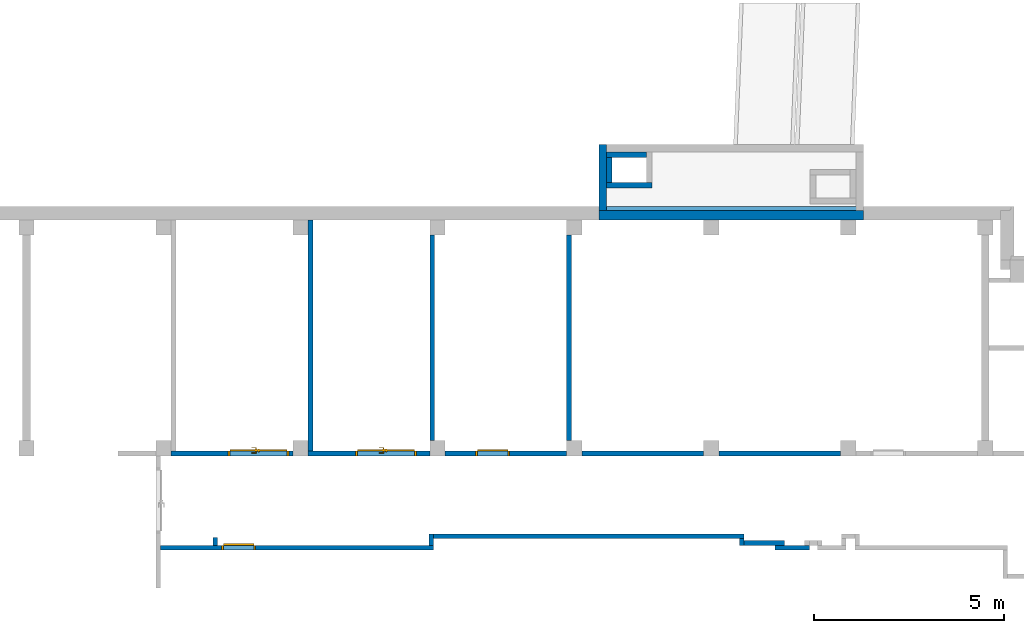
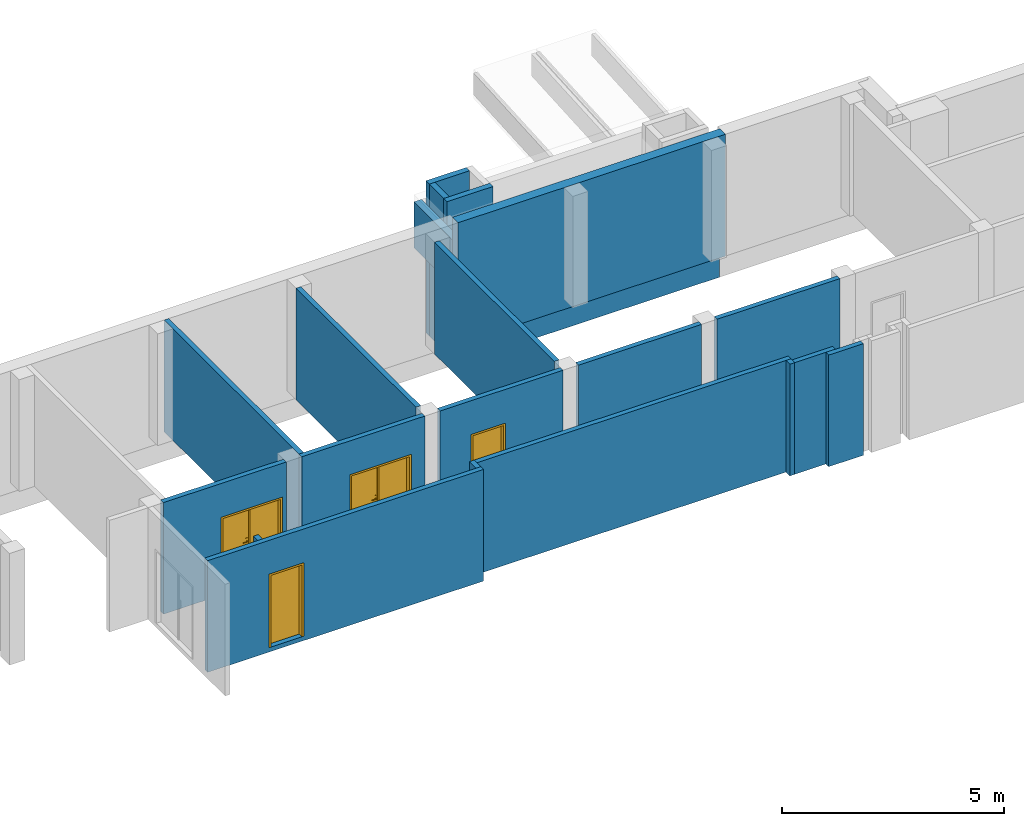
# One storey, part 2 of 6: 20 walls, 4 doors, 4 openings.
"""IFC4 building model written with IfcOpenShell, lengths in metres."""

from ifc_helpers import new_model, entity, si_unit, converted_unit, derived_unit, frame, frame_2d, origin, origin_with_axes, place, context, subcontext, project, spatial, polyline, rectangle, outline, extrude, clip, bounded_halfspace, closed_shell, open_shell, faceted_brep, surface_model, source, transform, mapped, material, layer, layer_set, layer_usage, type_object, element, fill, save


model = new_model("IFC4")

# Units and contexts
model_context = context("Model", 3, precision=1e-05, world=origin())
body_context = subcontext(model_context, "Body", "Model", "MODEL_VIEW")
ifc_project = project(units=[si_unit("LENGTHUNIT", "METRE"), si_unit("AREAUNIT", "SQUARE_METRE"), si_unit("VOLUMEUNIT", "CUBIC_METRE"), si_unit("MASSUNIT", "GRAM", prefix="KILO"), converted_unit("PLANEANGLEUNIT", "DEGREE", entity("IfcPlaneAngleMeasure", 0.0174532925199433), si_unit("PLANEANGLEUNIT", "RADIAN"), dimensions=[0, 0, 0, 0, 0, 0, 0]), derived_unit("THERMALTRANSMITTANCEUNIT", [(si_unit("POWERUNIT", "WATT"), 1), (si_unit("THERMODYNAMICTEMPERATUREUNIT", "KELVIN"), -1), (si_unit("LENGTHUNIT", "METRE"), -2)]), derived_unit("VOLUMETRICFLOWRATEUNIT", [(si_unit("LENGTHUNIT", "METRE"), 3), (converted_unit("TIMEUNIT", "hour", entity("IfcTimeMeasure", 3600.0), si_unit("TIMEUNIT", "SECOND"), dimensions=[0, 0, 1, 0, 0, 0, 0]), -1), (si_unit("LENGTHUNIT", "METRE"), -1)])], contexts=[model_context])

# Site, building, storey
site_placement = place(None, origin())
site = spatial("IfcSite", under=ifc_project, at=site_placement, Name="3. ASŘ", CompositionType="ELEMENT")
building_placement = place(site_placement, origin())
building = spatial("IfcBuilding", under=site, at=building_placement, Name="Pavilon B", CompositionType="ELEMENT")
storey_placement = place(building_placement, frame((0.0, 0.0, -3.3)))
storey = spatial("IfcBuildingStorey", under=building, at=storey_placement, Name="Půdorys 1.PP", CompositionType="ELEMENT", Elevation=-3.3)

# Walls
ifc_material_1 = material(Name="ZELEZOBETONOVÁ KCE")
ifc_layer_1 = layer(ifc_material_1, 0.15)
ifc_layer_set_1 = layer_set([ifc_layer_1])
ifc_layer_usage_1 = layer_usage(ifc_layer_set_1, "AXIS2", "POSITIVE", 0.0)
wall_1_placement = place(storey_placement, frame((21.8430036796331, -14.7607926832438, -1.23)))
element("IfcWall", 1, at=wall_1_placement, inside=storey, material=ifc_layer_usage_1, Name="ZELEZOBETONOVÁ KCE", context=body_context, shape_type="SweptSolid", body=[
    extrude(rectangle(XDim=1.2, YDim=0.15, at=frame_2d((0.6, 0.075), x_axis=(1.0, 0.0))), origin_with_axes(), (0.0, 0.0, 1.0), 4.18),
])
ifc_material_2 = material(Name="ZELEZOBETONOVÁ KCE")
ifc_layer_2 = layer(ifc_material_2, 0.15)
ifc_layer_set_2 = layer_set([ifc_layer_2])
ifc_layer_usage_2 = layer_usage(ifc_layer_set_2, "AXIS2", "POSITIVE", 0.0)
wall_2_placement = place(storey_placement, frame((21.8430036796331, -13.9607926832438, -1.23), z_axis=(0.0, 0.0, 1.0), x_axis=(0.0, -1.0, 0.0)))
element("IfcWall", 2, at=wall_2_placement, inside=storey, material=ifc_layer_usage_2, Name="ZELEZOBETONOVÁ KCE", context=body_context, shape_type="SweptSolid", body=[
    extrude(rectangle(XDim=0.65, YDim=0.15, at=frame_2d((0.325, 0.075), x_axis=(1.0, 0.0))), origin_with_axes(), (0.0, 0.0, 1.0), 4.18),
])
ifc_material_3 = material(Name="ZELEZOBETONOVÁ KCE")
ifc_layer_3 = layer(ifc_material_3, 0.15)
ifc_layer_set_3 = layer_set([ifc_layer_3])
ifc_layer_usage_3 = layer_usage(ifc_layer_set_3, "AXIS2", "POSITIVE", 0.0)
wall_3_placement = place(storey_placement, frame((22.8930036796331, -13.8107926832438, -1.23), z_axis=(0.0, 0.0, 1.0), x_axis=(-1.0, 0.0, 0.0)))
element("IfcWall", 3, at=wall_3_placement, inside=storey, material=ifc_layer_usage_3, Name="ZELEZOBETONOVÁ KCE", context=body_context, shape_type="SweptSolid", body=[
    extrude(rectangle(XDim=1.05, YDim=0.15, at=frame_2d((0.525, 0.075), x_axis=(1.0, 0.0))), origin_with_axes(), (0.0, 0.0, 1.0), 4.18),
])
ifc_material_4 = material(Name="ZELEZOBETONOVÁ KCE")
ifc_layer_4 = layer(ifc_material_4, 0.2)
ifc_layer_set_4 = layer_set([ifc_layer_4])
ifc_layer_usage_4 = layer_usage(ifc_layer_set_4, "AXIS2", "POSITIVE", 0.0)
wall_4_placement = place(storey_placement, frame((21.6430036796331, -13.6107926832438, 1.06), z_axis=(0.0, 0.0, 1.0), x_axis=(0.0, -1.0, 0.0)))
element("IfcWall", 4, at=wall_4_placement, inside=storey, material=ifc_layer_usage_4, Name="ZELEZOBETONOVÁ KCE", context=body_context, shape_type="SweptSolid", body=[
    extrude(rectangle(XDim=1.73920731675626, YDim=0.2, at=frame_2d((0.869603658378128, 0.1), x_axis=(1.0, 0.0))), origin_with_axes(), (0.0, 0.0, 1.0), 1.26),
])
ifc_material_5 = material(Name="ZELEZOBETONOVÁ KCE")
ifc_layer_5 = layer(ifc_material_5, 0.25)
ifc_material_6 = material(Name="LIGNOPOR")
ifc_layer_6 = layer(ifc_material_6, 0.025)
ifc_material_7 = material(Name="PÓROBETONOVÉ ZDIVO")
ifc_layer_7 = layer(ifc_material_7, 0.08)
ifc_layer_set_5 = layer_set([ifc_layer_5, ifc_layer_6, ifc_layer_7])
ifc_layer_usage_5 = layer_usage(ifc_layer_set_5, "AXIS2", "POSITIVE", 0.0)
wall_5_placement = place(storey_placement, frame((21.6430036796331, -15.6, -1.15)))
element("IfcWall", 5, at=wall_5_placement, inside=storey, material=ifc_layer_usage_5, Name="ZELEZOBETONOVÁ KCE", context=body_context, shape_type="Clipping", body=[
    clip(clip(clip(extrude(rectangle(XDim=6.95447232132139, YDim=0.355, at=frame_2d((3.47723616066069, 0.1775), x_axis=(1.0, 0.0))), origin_with_axes(), (0.0, 0.0, 1.0), 4.1), bounded_halfspace(frame((3.47723616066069, 0.125, 0.750000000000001), z_axis=(0.0, 0.0, 1.0), x_axis=(0.0, -1.0, 0.0)), True, origin_with_axes(), polyline([(0.0, 0.25), (0.0, 0.0), (6.95447232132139, 0.0), (6.95447232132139, 0.25), (0.0, 0.25)]))), bounded_halfspace(frame((3.47723616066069, 0.2625, 1.15), z_axis=(0.0, 0.0, 1.0), x_axis=(0.0, -1.0, 0.0)), True, origin_with_axes(), polyline([(0.0, 0.274999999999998), (0.0, 0.25), (6.95447232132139, 0.25), (6.95447232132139, 0.274999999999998), (0.0, 0.274999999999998)]))), bounded_halfspace(frame((3.47723616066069, 0.302499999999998, 2.01), z_axis=(-3.2694597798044e-17, 2.16546357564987e-15, -1.0), x_axis=(0.0, -1.0, -4.33092715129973e-15)), True, origin_with_axes(), polyline([(0.0, 0.354999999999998), (0.0, 0.25), (6.95447232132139, 0.25), (6.95447232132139, 0.354999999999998), (0.0, 0.354999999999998)]))),
])
ifc_material_8 = material(Name="ZDIVO Z CDm")
ifc_layer_8 = layer(ifc_material_8, 0.125)
ifc_layer_set_6 = layer_set([ifc_layer_8])
ifc_layer_usage_6 = layer_usage(ifc_layer_set_6, "AXIS2", "POSITIVE", 0.0)
wall_6_placement = place(storey_placement, frame((24.8, -21.8, -0.12)))
element("IfcWall", 6, at=wall_6_placement, inside=storey, material=ifc_layer_usage_6, Name="ZDIVO Z CDm", context=body_context, shape_type="SweptSolid", body=[
    extrude(rectangle(XDim=3.2, YDim=0.125, at=frame_2d((1.6, 0.0625), x_axis=(1.0, 0.0))), origin_with_axes(), (0.0, 0.0, 1.0), 3.07),
])
ifc_material_9 = material(Name="ZDIVO Z CDm")
ifc_layer_9 = layer(ifc_material_9, 0.125)
ifc_layer_set_7 = layer_set([ifc_layer_9])
ifc_layer_usage_7 = layer_usage(ifc_layer_set_7, "AXIS2", "POSITIVE", 0.0)
wall_7_placement = place(storey_placement, frame((21.2, -21.8, -0.12)))
element("IfcWall", 7, at=wall_7_placement, inside=storey, material=ifc_layer_usage_7, Name="ZDIVO Z CDm", context=body_context, shape_type="SweptSolid", body=[
    extrude(rectangle(XDim=3.2, YDim=0.125, at=frame_2d((1.6, 0.0625), x_axis=(1.0, 0.0))), origin_with_axes(), (0.0, 0.0, 1.0), 3.07),
])

# Wall, opening, door
ifc_material_10 = material(Name="ZDIVO Z CDm")
ifc_layer_10 = layer(ifc_material_10, 0.125)
ifc_layer_set_8 = layer_set([ifc_layer_10])
ifc_layer_usage_8 = layer_usage(ifc_layer_set_8, "AXIS2", "POSITIVE", 0.0)
wall_8_placement = place(storey_placement, frame((17.6, -21.8, -0.12)))
wall_8 = element("IfcWall", 8, at=wall_8_placement, inside=storey, material=ifc_layer_usage_8, Name="ZDIVO Z CDm", context=body_context, shape_type="SweptSolid", body=[
    extrude(rectangle(XDim=3.2, YDim=0.125, at=frame_2d((1.6, 0.0625), x_axis=(1.0, 0.0))), origin_with_axes(), (0.0, 0.0, 1.0), 3.07),
])
opening_1_placement = place(wall_8_placement, frame((1.7, 0.125, 0.12), z_axis=(0.0, -1.0, 0.0), x_axis=(0.0, 0.0, 1.0)))
opening_1 = element("IfcOpeningElement", 9, at=opening_1_placement, cuts=wall_8, Name="Dveřní otvor", ObjectType="Opening", context=body_context, shape_type="SweptSolid", body=[
    extrude(outline(polyline([(0.0, 0.9), (2.02, 0.9), (2.02, 0.0), (0.0, 0.0), (0.0, 0.9)])), origin_with_axes(), (0.0, 0.0, 1.0), 0.125),
])
door_type_1 = type_object("IfcDoorType", Name="D401", OperationType="NOTDEFINED", ParameterTakesPrecedence=False, PredefinedType="DOOR")
shared_shape_1 = source(origin_with_axes(), body_context, "Body", "Brep", [
    faceted_brep([(0.0, 0.165, 2.02), (0.0, 0.165, -7.65404249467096e-18), (0.05, 0.165, -7.65404249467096e-18), (0.05, 0.165, 2.02), (0.0, 0.04, 7.65404249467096e-18), (0.0, 0.0400000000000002, 2.02), (0.05, 0.0400000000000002, 2.02), (0.05, 0.04, 7.65404249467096e-18)], [[[0, 1, 2, 3]], [[4, 5, 6, 7]], [[1, 0, 5, 4]], [[2, 1, 4, 7]], [[3, 2, 7, 6]], [[0, 3, 6, 5]]], orient=[[False], [False], [False], [False], [False], [False]]),
    faceted_brep([(0.85, 0.165, 2.02), (0.85, 0.165, -7.65404249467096e-18), (0.9, 0.165, -7.65404249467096e-18), (0.9, 0.165, 2.02), (0.85, 0.04, 7.65404249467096e-18), (0.85, 0.0400000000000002, 2.02), (0.9, 0.0400000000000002, 2.02), (0.9, 0.04, 7.65404249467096e-18)], [[[0, 1, 2, 3]], [[4, 5, 6, 7]], [[1, 0, 5, 4]], [[2, 1, 4, 7]], [[3, 2, 7, 6]], [[0, 3, 6, 5]]], orient=[[False], [False], [False], [False], [False], [False]]),
    faceted_brep([(0.05, 0.165, 2.02), (0.05, 0.165, 1.97), (0.85, 0.165, 1.97), (0.85, 0.165, 2.02), (0.05, 0.0400000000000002, 1.97), (0.05, 0.0400000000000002, 2.02), (0.85, 0.0400000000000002, 2.02), (0.85, 0.0400000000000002, 1.97)], [[[0, 1, 2, 3]], [[4, 5, 6, 7]], [[1, 0, 5, 4]], [[2, 1, 4, 7]], [[3, 2, 7, 6]], [[0, 3, 6, 5]]], orient=[[False], [False], [False], [False], [False], [False]]),
    faceted_brep([(0.05, 0.0400000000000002, 1.97), (0.05, 0.04, 7.65404249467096e-18), (0.85, 0.04, 7.65404249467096e-18), (0.85, 0.0400000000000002, 1.97), (0.05, 0.0, 1.25526296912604e-17), (0.05, 2.41584530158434e-16, 1.97), (0.85, 2.41584530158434e-16, 1.97), (0.85, 0.0, 1.25526296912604e-17)], [[[0, 1, 2, 3]], [[4, 5, 6, 7]], [[1, 0, 5, 4]], [[2, 1, 4, 7]], [[3, 2, 7, 6]], [[0, 3, 6, 5]]], orient=[[False], [False], [False], [False], [False], [False]]),
])
door_1_placement = place(opening_1_placement, frame((0.0, 0.9, -0.04), z_axis=(1.0, 0.0, 0.0), x_axis=(0.0, -1.0, 1.22464679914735e-16)))
door_1 = element("IfcDoor", 10, at=door_1_placement, inside=storey, type_object=door_type_1, Name="D401", OverallHeight=2.02, OverallWidth=0.9, context=body_context, shape_type="MappedRepresentation", body=[
    mapped(shared_shape_1, transform((0.0, 0.0, 0.0), x_axis=(1.0, 0.0, 0.0), y_axis=(0.0, -1.0, 0.0), z_axis=(0.0, 0.0, 1.0), scale=1.0)),
])
fill(opening_1, door_1)

ifc_material_11 = material(Name="ZDIVO Z CDm")
ifc_layer_11 = layer(ifc_material_11, 0.125)
ifc_layer_set_9 = layer_set([ifc_layer_11])
ifc_layer_usage_9 = layer_usage(ifc_layer_set_9, "AXIS2", "POSITIVE", 0.0)
wall_9_placement = place(storey_placement, frame((14.0, -21.8, -0.12)))
wall_9 = element("IfcWall", 11, at=wall_9_placement, inside=storey, material=ifc_layer_usage_9, Name="ZDIVO Z CDm", context=body_context, shape_type="SweptSolid", body=[
    extrude(rectangle(XDim=3.2, YDim=0.125, at=frame_2d((1.6, 0.0625), x_axis=(1.0, 0.0))), origin_with_axes(), (0.0, 0.0, 1.0), 3.07),
])
opening_2_placement = place(wall_9_placement, frame((1.25, 0.0, 0.12), z_axis=(0.0, 1.0, 0.0), x_axis=(0.0, 0.0, 1.0)))
opening_2 = element("IfcOpeningElement", 12, at=opening_2_placement, cuts=wall_9, Name="Dveřní otvor", ObjectType="Opening", context=body_context, shape_type="SweptSolid", body=[
    extrude(outline(polyline([(0.0, 1.6), (2.02, 1.6), (2.02, 0.0), (0.0, 0.0), (0.0, 1.6)])), origin_with_axes(), (0.0, 0.0, 1.0), 0.125),
])
door_type_2 = type_object("IfcDoorType", Name="D401", OperationType="NOTDEFINED", ParameterTakesPrecedence=False, PredefinedType="DOOR")
shared_shape_2 = source(origin_with_axes(), body_context, "Body", "SurfaceModel", [
    surface_model("IfcShellBasedSurfaceModel", [(0.0, 0.125, 2.02), (0.0, 0.125, -7.65404249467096e-18), (0.05, 0.125, -7.65404249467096e-18), (0.05, 0.125, 2.02), (0.0, 0.0, 7.65404249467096e-18), (0.0, 2.41584530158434e-16, 2.02), (0.05, 2.41584530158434e-16, 2.02), (0.05, 0.0, 7.65404249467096e-18)], [closed_shell([[[0, 1, 2, 3]], [[4, 5, 6, 7]], [[1, 0, 5, 4]], [[2, 1, 4, 7]], [[3, 2, 7, 6]], [[0, 3, 6, 5]]], orient=[[False], [False], [False], [False], [False], [False]])]),
    surface_model("IfcShellBasedSurfaceModel", [(1.55, 0.125, 2.02), (1.55, 0.125, -7.65404249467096e-18), (1.6, 0.125, -7.65404249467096e-18), (1.6, 0.125, 2.02), (1.55, 0.0, 7.65404249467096e-18), (1.55, 2.41584530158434e-16, 2.02), (1.6, 2.41584530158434e-16, 2.02), (1.6, 0.0, 7.65404249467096e-18)], [closed_shell([[[0, 1, 2, 3]], [[4, 5, 6, 7]], [[1, 0, 5, 4]], [[2, 1, 4, 7]], [[3, 2, 7, 6]], [[0, 3, 6, 5]]], orient=[[False], [False], [False], [False], [False], [False]])]),
    surface_model("IfcShellBasedSurfaceModel", [(0.05, 0.125, 2.02), (0.05, 0.125, 1.97), (1.55, 0.125, 1.97), (1.55, 0.125, 2.02), (0.05, 2.41584530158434e-16, 1.97), (0.05, 2.41584530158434e-16, 2.02), (1.55, 2.41584530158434e-16, 2.02), (1.55, 2.41584530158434e-16, 1.97)], [closed_shell([[[0, 1, 2, 3]], [[4, 5, 6, 7]], [[1, 0, 5, 4]], [[2, 1, 4, 7]], [[3, 2, 7, 6]], [[0, 3, 6, 5]]], orient=[[False], [False], [False], [False], [False], [False]])]),
    surface_model("IfcShellBasedSurfaceModel", [(0.05, 0.165, 1.97), (0.05, 0.165, -1.25526296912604e-17), (0.7995, 0.165, -1.25526296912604e-17), (0.7995, 0.165, 1.97), (0.05, 0.125, -7.65404249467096e-18), (0.05, 0.125, 1.97), (0.7995, 0.125, 1.97), (0.7995, 0.125, -7.65404249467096e-18)], [closed_shell([[[0, 1, 2, 3]], [[4, 5, 6, 7]], [[1, 0, 5, 4]], [[2, 1, 4, 7]], [[3, 2, 7, 6]], [[0, 3, 6, 5]]], orient=[[False], [False], [False], [False], [False], [False]])]),
    surface_model("IfcShellBasedSurfaceModel", [(0.7795, 0.165, 1.97), (0.8195, 0.165, 1.97), (0.8195, 0.165, -1.25526296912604e-17), (0.7795, 0.165, -1.25526296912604e-17), (0.7795, 0.185, -1.50019232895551e-17), (0.8195, 0.185, -1.50019232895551e-17), (0.8195, 0.185, 1.97), (0.7795, 0.185, 1.97)], [closed_shell([[[0, 1, 2, 3]], [[4, 5, 6, 7]], [[3, 4, 7, 0]], [[2, 5, 4, 3]], [[1, 6, 5, 2]], [[0, 7, 6, 1]]], orient=[[False], [False], [False], [False], [False], [False]])]),
    surface_model("IfcShellBasedSurfaceModel", [(0.7095, 0.125, 1.125), (0.7095, 0.125, 0.91), (0.7595, 0.125, 0.91), (0.7595, 0.125, 1.125), (0.7095, 0.115, 0.91), (0.7095, 0.115, 1.125), (0.7595, 0.115, 1.125), (0.7595, 0.115, 0.91)], [closed_shell([[[0, 1, 2, 3]], [[4, 5, 6, 7]], [[1, 0, 5, 4]], [[2, 1, 4, 7]], [[3, 2, 7, 6]], [[0, 3, 6, 5]]], orient=[[False], [False], [False], [False], [False], [False]])]),
    surface_model("IfcShellBasedSurfaceModel", [(0.7345, 0.115, 1.06), (0.7295, 0.115, 1.05866025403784), (0.725839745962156, 0.115, 1.055), (0.7245, 0.115, 1.05), (0.725839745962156, 0.115, 1.045), (0.7295, 0.115, 1.04133974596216), (0.7345, 0.115, 1.04), (0.7395, 0.115, 1.04133974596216), (0.743160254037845, 0.115, 1.045), (0.7445, 0.115, 1.05), (0.743160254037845, 0.115, 1.055), (0.7395, 0.115, 1.05866025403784), (0.7395, 0.0700000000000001, 1.05866025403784), (0.7345, 0.0750000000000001, 1.06), (0.743160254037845, 0.0663397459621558, 1.055), (0.7445, 0.0650000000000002, 1.05), (0.743160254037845, 0.0663397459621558, 1.045), (0.7395, 0.0700000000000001, 1.04133974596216), (0.7345, 0.0750000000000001, 1.04), (0.7295, 0.0800000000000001, 1.04133974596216), (0.725839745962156, 0.0836602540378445, 1.045), (0.7245, 0.0850000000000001, 1.05), (0.725839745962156, 0.0836602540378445, 1.055), (0.7295, 0.0800000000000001, 1.05866025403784), (0.6195, 0.0700000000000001, 1.05866025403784), (0.6195, 0.0750000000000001, 1.06), (0.6195, 0.0663397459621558, 1.055), (0.6195, 0.0650000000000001, 1.05), (0.6195, 0.0663397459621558, 1.045), (0.6195, 0.0700000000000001, 1.04133974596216), (0.6195, 0.0750000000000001, 1.04), (0.6195, 0.0800000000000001, 1.04133974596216), (0.6195, 0.0836602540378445, 1.045), (0.6195, 0.0850000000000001, 1.05), (0.6195, 0.0836602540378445, 1.055), (0.6195, 0.0800000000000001, 1.05866025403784)], [open_shell([[[0, 1, 2, 3, 4, 5, 6, 7, 8, 9, 10, 11]], [[0, 11, 12, 13]], [[11, 10, 14, 12]], [[10, 9, 15, 14]], [[9, 8, 16, 15]], [[8, 7, 17, 16]], [[7, 6, 18, 17]], [[6, 5, 19, 18]], [[5, 4, 20, 19]], [[4, 3, 21, 20]], [[3, 2, 22, 21]], [[2, 1, 23, 22]], [[1, 0, 13, 23]], [[13, 12, 24, 25]], [[12, 14, 26, 24]], [[14, 15, 27, 26]], [[15, 16, 28, 27]], [[16, 17, 29, 28]], [[17, 18, 30, 29]], [[18, 19, 31, 30]], [[19, 20, 32, 31]], [[20, 21, 33, 32]], [[21, 22, 34, 33]], [[22, 23, 35, 34]], [[23, 13, 25, 35]]], orient=[[False], [False], [False], [False], [False], [False], [False], [False], [False], [False], [False], [False], [False], [False], [False], [False], [False], [False], [False], [False], [False], [False], [False], [False], [False]])]),
    surface_model("IfcShellBasedSurfaceModel", [(0.7095, 0.165, 1.125), (0.7595, 0.165, 1.125), (0.7595, 0.165, 0.91), (0.7095, 0.165, 0.91), (0.7095, 0.175, 0.91), (0.7595, 0.175, 0.91), (0.7595, 0.175, 1.125), (0.7095, 0.175, 1.125)], [closed_shell([[[0, 1, 2, 3]], [[4, 5, 6, 7]], [[3, 4, 7, 0]], [[2, 5, 4, 3]], [[1, 6, 5, 2]], [[0, 7, 6, 1]]], orient=[[False], [False], [False], [False], [False], [False]])]),
    surface_model("IfcShellBasedSurfaceModel", [(0.7345, 0.175, 1.06), (0.7395, 0.175, 1.05866025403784), (0.743160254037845, 0.175, 1.055), (0.7445, 0.175, 1.05), (0.743160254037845, 0.175, 1.045), (0.7395, 0.175, 1.04133974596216), (0.7345, 0.175, 1.04), (0.7295, 0.175, 1.04133974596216), (0.725839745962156, 0.175, 1.045), (0.7245, 0.175, 1.05), (0.725839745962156, 0.175, 1.055), (0.7295, 0.175, 1.05866025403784), (0.7345, 0.215, 1.06), (0.7395, 0.22, 1.05866025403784), (0.743160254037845, 0.223660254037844, 1.055), (0.7445, 0.225, 1.05), (0.743160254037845, 0.223660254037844, 1.045), (0.7395, 0.22, 1.04133974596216), (0.7345, 0.215, 1.04), (0.7295, 0.21, 1.04133974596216), (0.725839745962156, 0.206339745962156, 1.045), (0.7245, 0.205, 1.05), (0.725839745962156, 0.206339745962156, 1.055), (0.7295, 0.21, 1.05866025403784), (0.6195, 0.215, 1.06), (0.6195, 0.22, 1.05866025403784), (0.6195, 0.223660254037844, 1.055), (0.6195, 0.225, 1.05), (0.6195, 0.223660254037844, 1.045), (0.6195, 0.22, 1.04133974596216), (0.6195, 0.215, 1.04), (0.6195, 0.21, 1.04133974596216), (0.6195, 0.206339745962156, 1.045), (0.6195, 0.205, 1.05), (0.6195, 0.206339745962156, 1.055), (0.6195, 0.21, 1.05866025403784)], [open_shell([[[0, 1, 2, 3, 4, 5, 6, 7, 8, 9, 10, 11]], [[0, 12, 13, 1]], [[1, 13, 14, 2]], [[2, 14, 15, 3]], [[3, 15, 16, 4]], [[4, 16, 17, 5]], [[5, 17, 18, 6]], [[6, 18, 19, 7]], [[7, 19, 20, 8]], [[8, 20, 21, 9]], [[9, 21, 22, 10]], [[10, 22, 23, 11]], [[11, 23, 12, 0]], [[12, 24, 25, 13]], [[13, 25, 26, 14]], [[14, 26, 27, 15]], [[15, 27, 28, 16]], [[16, 28, 29, 17]], [[17, 29, 30, 18]], [[18, 30, 31, 19]], [[19, 31, 32, 20]], [[20, 32, 33, 21]], [[21, 33, 34, 22]], [[22, 34, 35, 23]], [[23, 35, 24, 12]]], orient=[[False], [False], [False], [False], [False], [False], [False], [False], [False], [False], [False], [False], [False], [False], [False], [False], [False], [False], [False], [False], [False], [False], [False], [False], [False]])]),
    surface_model("IfcShellBasedSurfaceModel", [(0.8005, 0.165, 1.97), (0.8005, 0.165, -1.25526296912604e-17), (1.55, 0.165, -1.25526296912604e-17), (1.55, 0.165, 1.97), (0.8005, 0.125, -7.65404249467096e-18), (0.8005, 0.125, 1.97), (1.55, 0.125, 1.97), (1.55, 0.125, -7.65404249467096e-18)], [closed_shell([[[0, 1, 2, 3]], [[4, 5, 6, 7]], [[1, 0, 5, 4]], [[2, 1, 4, 7]], [[3, 2, 7, 6]], [[0, 3, 6, 5]]], orient=[[False], [False], [False], [False], [False], [False]])]),
    surface_model("IfcShellBasedSurfaceModel", [(0.7805, 0.125, 1.97), (0.7805, 0.125, -7.65404249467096e-18), (0.8205, 0.125, -7.65404249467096e-18), (0.8205, 0.125, 1.97), (0.7805, 0.105, -5.20474889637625e-18), (0.7805, 0.105, 1.97), (0.8205, 0.105, 1.97), (0.8205, 0.105, -5.20474889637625e-18)], [closed_shell([[[0, 1, 2, 3]], [[4, 5, 6, 7]], [[1, 0, 5, 4]], [[2, 1, 4, 7]], [[3, 2, 7, 6]], [[0, 3, 6, 5]]], orient=[[False], [False], [False], [False], [False], [False]])]),
])
door_2_placement = place(opening_2_placement, frame((0.0, 0.0, 0.0), z_axis=(1.0, 0.0, 0.0), x_axis=(0.0, 1.0, 0.0)))
door_2 = element("IfcDoor", 13, at=door_2_placement, inside=storey, type_object=door_type_2, Name="D401", OverallHeight=2.02, OverallWidth=1.6, context=body_context, shape_type="MappedRepresentation", body=[
    mapped(shared_shape_2, transform((0.0, 0.0, 0.0), x_axis=(1.0, 0.0, 0.0), y_axis=(0.0, 1.0, 0.0), z_axis=(0.0, 0.0, 1.0), scale=1.0)),
])
fill(opening_2, door_2)

ifc_material_12 = material(Name="ZDIVO Z CDm")
ifc_layer_12 = layer(ifc_material_12, 0.125)
ifc_layer_set_10 = layer_set([ifc_layer_12])
ifc_layer_usage_10 = layer_usage(ifc_layer_set_10, "AXIS2", "POSITIVE", 0.0)
wall_10_placement = place(storey_placement, frame((10.4, -21.8, -0.12)))
wall_10 = element("IfcWall", 14, at=wall_10_placement, inside=storey, material=ifc_layer_usage_10, Name="ZDIVO Z CDm", context=body_context, shape_type="SweptSolid", body=[
    extrude(rectangle(XDim=3.2, YDim=0.125, at=frame_2d((1.6, 0.0625), x_axis=(1.0, 0.0))), origin_with_axes(), (0.0, 0.0, 1.0), 3.07),
])
opening_3_placement = place(wall_10_placement, frame((1.5, 0.0, 0.12), z_axis=(0.0, 1.0, 0.0), x_axis=(0.0, 0.0, 1.0)))
opening_3 = element("IfcOpeningElement", 15, at=opening_3_placement, cuts=wall_10, Name="Dveřní otvor", ObjectType="Opening", context=body_context, shape_type="SweptSolid", body=[
    extrude(outline(polyline([(0.0, 1.6), (2.02, 1.6), (2.02, 0.0), (0.0, 0.0), (0.0, 1.6)])), origin_with_axes(), (0.0, 0.0, 1.0), 0.125),
])
door_type_3 = type_object("IfcDoorType", Name="D401", OperationType="NOTDEFINED", ParameterTakesPrecedence=False, PredefinedType="DOOR")
door_3_placement = place(opening_3_placement, frame((0.0, 0.0, 0.0), z_axis=(1.0, 0.0, 0.0), x_axis=(0.0, 1.0, 0.0)))
door_3 = element("IfcDoor", 16, at=door_3_placement, inside=storey, type_object=door_type_3, Name="D401", OverallHeight=2.02, OverallWidth=1.6, context=body_context, shape_type="MappedRepresentation", body=[
    mapped(shared_shape_2, transform((0.0, 0.0, 0.0), x_axis=(1.0, 0.0, 0.0), y_axis=(0.0, 1.0, 0.0), z_axis=(0.0, 0.0, 1.0), scale=1.0)),
])
fill(opening_3, door_3)

# Walls
ifc_material_13 = material(Name="ZDIVO Z CDm")
ifc_layer_13 = layer(ifc_material_13, 0.125)
ifc_layer_set_11 = layer_set([ifc_layer_13])
ifc_layer_usage_11 = layer_usage(ifc_layer_set_11, "AXIS2", "POSITIVE", 0.0)
wall_11_placement = place(storey_placement, frame((17.2, -16.0, -0.12), z_axis=(0.0, 0.0, 1.0), x_axis=(0.0, -1.0, 0.0)))
element("IfcWall", 17, at=wall_11_placement, inside=storey, material=ifc_layer_usage_11, Name="ZDIVO Z CDm", context=body_context, shape_type="SweptSolid", body=[
    extrude(rectangle(XDim=5.39999999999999, YDim=0.125, at=frame_2d((2.7, 0.0625), x_axis=(1.0, 0.0))), origin_with_axes(), (0.0, 0.0, 1.0), 3.07),
])
ifc_material_14 = material(Name="ZDIVO Z CDm")
ifc_layer_14 = layer(ifc_material_14, 0.125)
ifc_layer_set_12 = layer_set([ifc_layer_14])
ifc_layer_usage_12 = layer_usage(ifc_layer_set_12, "AXIS2", "POSITIVE", 0.0)
wall_12_placement = place(storey_placement, frame((14.0, -15.6, -0.12), z_axis=(0.0, 0.0, 1.0), x_axis=(0.0, -1.0, 0.0)))
element("IfcWall", 18, at=wall_12_placement, inside=storey, material=ifc_layer_usage_12, Name="ZDIVO Z CDm", context=body_context, shape_type="SweptSolid", body=[
    extrude(rectangle(XDim=6.07499999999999, YDim=0.125, at=frame_2d((3.0375, 0.0625), x_axis=(1.0, 0.0))), origin_with_axes(), (0.0, 0.0, 1.0), 3.07),
])
ifc_material_15 = material(Name="ZDIVO Z CDm")
ifc_layer_15 = layer(ifc_material_15, 0.125)
ifc_layer_set_13 = layer_set([ifc_layer_15])
ifc_layer_usage_13 = layer_usage(ifc_layer_set_13, "AXIS2", "POSITIVE", 0.0)
wall_13_placement = place(storey_placement, frame((20.8, -16.0, -0.12), z_axis=(0.0, 0.0, 1.0), x_axis=(0.0, -1.0, 0.0)))
element("IfcWall", 19, at=wall_13_placement, inside=storey, material=ifc_layer_usage_13, Name="ZDIVO Z CDm", context=body_context, shape_type="SweptSolid", body=[
    extrude(rectangle(XDim=5.39999999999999, YDim=0.125, at=frame_2d((2.7, 0.0625), x_axis=(1.0, 0.0))), origin_with_axes(), (0.0, 0.0, 1.0), 3.07),
])

# Wall, opening, door
ifc_material_16 = material(Name="ZDIVO Z CDm")
ifc_layer_16 = layer(ifc_material_16, 0.125)
ifc_layer_set_14 = layer_set([ifc_layer_16])
ifc_layer_usage_14 = layer_usage(ifc_layer_set_14, "AXIS2", "POSITIVE", 0.0)
wall_14_placement = place(storey_placement, frame((17.3, -24.15, -0.12), z_axis=(0.0, 0.0, 1.0), x_axis=(-1.0, 0.0, 0.0)))
wall_14 = element("IfcWall", 20, at=wall_14_placement, inside=storey, material=ifc_layer_usage_14, Name="ZDIVO Z CDm", context=body_context, shape_type="SweptSolid", body=[
    extrude(rectangle(XDim=7.175, YDim=0.125, at=frame_2d((3.5875, 0.0625), x_axis=(1.0, 0.0))), origin_with_axes(), (0.0, 0.0, 1.0), 3.07),
])
opening_4_placement = place(wall_14_placement, frame((4.675, 0.0, 0.12), z_axis=(0.0, 1.0, 0.0), x_axis=(0.0, 0.0, 1.0)))
opening_4 = element("IfcOpeningElement", 21, at=opening_4_placement, cuts=wall_14, Name="Dveřní otvor", ObjectType="Opening", context=body_context, shape_type="SweptSolid", body=[
    extrude(outline(polyline([(0.0, 0.9), (2.02, 0.9), (2.02, 0.0), (0.0, 0.0), (0.0, 0.9)])), origin_with_axes(), (0.0, 0.0, 1.0), 0.125),
])
door_type_4 = type_object("IfcDoorType", Name="D401", OperationType="NOTDEFINED", ParameterTakesPrecedence=False, PredefinedType="DOOR")
door_4_placement = place(opening_4_placement, frame((0.0, 0.9, -0.04), z_axis=(1.0, 0.0, 0.0), x_axis=(0.0, -1.0, 1.22464679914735e-16)))
door_4 = element("IfcDoor", 22, at=door_4_placement, inside=storey, type_object=door_type_4, Name="D401", OverallHeight=2.02, OverallWidth=0.9, context=body_context, shape_type="MappedRepresentation", body=[
    mapped(shared_shape_1, transform((0.0, 0.0, 0.0), x_axis=(1.0, 0.0, 0.0), y_axis=(0.0, -1.0, 0.0), z_axis=(0.0, 0.0, 1.0), scale=1.0)),
])
fill(opening_4, door_4)

# Walls
ifc_material_17 = material(Name="ZDIVO Z CDm")
ifc_layer_17 = layer(ifc_material_17, 0.125)
ifc_layer_set_15 = layer_set([ifc_layer_17])
ifc_layer_usage_15 = layer_usage(ifc_layer_set_15, "AXIS2", "POSITIVE", 0.0)
wall_15_placement = place(storey_placement, frame((17.175, -23.85, -0.12), z_axis=(0.0, 0.0, 1.0), x_axis=(0.0, -1.0, 0.0)))
element("IfcWall", 23, at=wall_15_placement, inside=storey, material=ifc_layer_usage_15, Name="ZDIVO Z CDm", context=body_context, shape_type="SweptSolid", body=[
    extrude(rectangle(XDim=0.3, YDim=0.125, at=frame_2d((0.15, 0.0625), x_axis=(1.0, 0.0))), origin_with_axes(), (0.0, 0.0, 1.0), 3.07),
])
ifc_material_18 = material(Name="ZDIVO Z CDm")
ifc_layer_18 = layer(ifc_material_18, 0.125)
ifc_layer_set_16 = layer_set([ifc_layer_18])
ifc_layer_usage_16 = layer_usage(ifc_layer_set_16, "AXIS2", "POSITIVE", 0.0)
wall_16_placement = place(storey_placement, frame((25.465, -23.85, -0.12), z_axis=(0.0, 0.0, 1.0), x_axis=(-1.0, 0.0, 0.0)))
element("IfcWall", 24, at=wall_16_placement, inside=storey, material=ifc_layer_usage_16, Name="ZDIVO Z CDm", context=body_context, shape_type="SweptSolid", body=[
    extrude(rectangle(XDim=8.165, YDim=0.125, at=frame_2d((4.0825, 0.0625), x_axis=(1.0, 0.0))), origin_with_axes(), (0.0, 0.0, 1.0), 3.07),
])
ifc_material_19 = material(Name="ZDIVO Z CDm")
ifc_layer_19 = layer(ifc_material_19, 0.125)
ifc_layer_set_17 = layer_set([ifc_layer_19])
ifc_layer_usage_17 = layer_usage(ifc_layer_set_17, "AXIS2", "POSITIVE", 0.0)
wall_17_placement = place(storey_placement, frame((25.465, -24.15, -0.12), z_axis=(0.0, 0.0, 1.0), x_axis=(0.0, 1.0, 0.0)))
element("IfcWall", 25, at=wall_17_placement, inside=storey, material=ifc_layer_usage_17, Name="ZDIVO Z CDm", context=body_context, shape_type="SweptSolid", body=[
    extrude(rectangle(XDim=0.175, YDim=0.125, at=frame_2d((0.0875, 0.0625), x_axis=(1.0, 0.0))), origin_with_axes(), (0.0, 0.0, 1.0), 3.07),
])
ifc_material_20 = material(Name="ZDIVO Z CDm")
ifc_layer_20 = layer(ifc_material_20, 0.125)
ifc_layer_set_18 = layer_set([ifc_layer_20])
ifc_layer_usage_18 = layer_usage(ifc_layer_set_18, "AXIS2", "POSITIVE", 0.0)
wall_18_placement = place(storey_placement, frame((25.465, -24.15, -0.12)))
element("IfcWall", 26, at=wall_18_placement, inside=storey, material=ifc_layer_usage_18, Name="ZDIVO Z CDm", context=body_context, shape_type="SweptSolid", body=[
    extrude(rectangle(XDim=1.06, YDim=0.125, at=frame_2d((0.53, 0.0625), x_axis=(1.0, 0.0))), origin_with_axes(), (0.0, 0.0, 1.0), 3.07),
])
ifc_material_21 = material(Name="ZDIVO Z CDm")
ifc_layer_21 = layer(ifc_material_21, 0.125)
ifc_layer_set_19 = layer_set([ifc_layer_21])
ifc_layer_usage_19 = layer_usage(ifc_layer_set_19, "AXIS2", "POSITIVE", 0.0)
wall_19_placement = place(storey_placement, frame((27.18, -24.15, -0.12), z_axis=(0.0, 0.0, 1.0), x_axis=(-1.0, 0.0, 0.0)))
element("IfcWall", 27, at=wall_19_placement, inside=storey, material=ifc_layer_usage_19, Name="ZDIVO Z CDm", context=body_context, shape_type="SweptSolid", body=[
    extrude(rectangle(XDim=0.905, YDim=0.125, at=frame_2d((0.4525, 0.0625), x_axis=(1.0, 0.0))), origin_with_axes(), (0.0, 0.0, 1.0), 3.07),
])
ifc_material_22 = material(Name="ZDIVO Z CDm")
ifc_layer_22 = layer(ifc_material_22, 0.125)
ifc_layer_set_20 = layer_set([ifc_layer_22])
ifc_layer_usage_20 = layer_usage(ifc_layer_set_20, "AXIS2", "POSITIVE", 0.0)
wall_20_placement = place(storey_placement, frame((11.625, -24.15, -0.12), z_axis=(0.0, 0.0, 1.0), x_axis=(0.0, 1.0, 0.0)))
element("IfcWall", 28, at=wall_20_placement, inside=storey, material=ifc_layer_usage_20, Name="ZDIVO Z CDm", context=body_context, shape_type="SweptSolid", body=[
    extrude(rectangle(XDim=0.2, YDim=0.125, at=frame_2d((0.1, 0.0625), x_axis=(1.0, 0.0))), origin_with_axes(), (0.0, 0.0, 1.0), 3.07),
])

save(model, "model.ifc")
